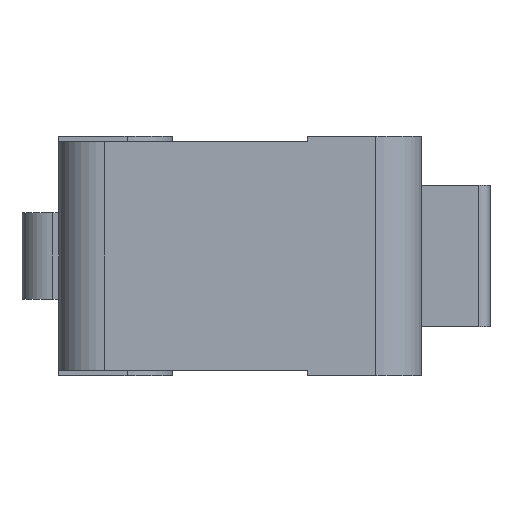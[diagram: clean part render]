
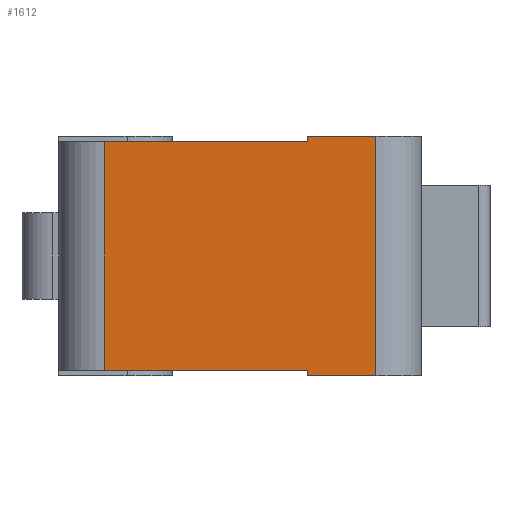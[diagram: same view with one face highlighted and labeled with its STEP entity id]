
A CAD part, left-side view. The second image highlights one B-rep face of the part: STEP entity #1612.
In plain terms, the highlighted planar face has unit normal (-1, 0, 0).
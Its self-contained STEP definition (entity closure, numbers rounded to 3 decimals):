
#217=FACE_OUTER_BOUND('',#319,.T.);
#319=EDGE_LOOP('',(#1435,#1436,#1437,#1438,#1439,#1440,#1441,#1442));
#466=LINE('',#2515,#641);
#469=LINE('',#2521,#644);
#480=LINE('',#2557,#655);
#483=LINE('',#2565,#658);
#496=LINE('',#2600,#671);
#498=LINE('',#2604,#673);
#499=LINE('',#2607,#674);
#500=LINE('',#2608,#675);
#641=VECTOR('',#2056,0.25);
#644=VECTOR('',#2063,3.);
#655=VECTOR('',#2096,3.);
#658=VECTOR('',#2105,0.25);
#671=VECTOR('',#2142,8.9);
#673=VECTOR('',#2148,10.5);
#674=VECTOR('',#2151,8.9);
#675=VECTOR('',#2152,10.);
#796=VERTEX_POINT('',#2512);
#797=VERTEX_POINT('',#2514);
#798=VERTEX_POINT('',#2519);
#811=VERTEX_POINT('',#2554);
#812=VERTEX_POINT('',#2556);
#814=VERTEX_POINT('',#2563);
#824=VERTEX_POINT('',#2599);
#825=VERTEX_POINT('',#2606);
#990=EDGE_CURVE('',#797,#796,#466,.T.);
#994=EDGE_CURVE('',#796,#798,#469,.T.);
#1011=EDGE_CURVE('',#811,#812,#480,.T.);
#1016=EDGE_CURVE('',#814,#811,#483,.T.);
#1034=EDGE_CURVE('',#797,#824,#496,.T.);
#1037=EDGE_CURVE('',#812,#798,#498,.T.);
#1038=EDGE_CURVE('',#825,#814,#499,.T.);
#1039=EDGE_CURVE('',#824,#825,#500,.T.);
#1435=ORIENTED_EDGE('',*,*,#1037,.F.);
#1436=ORIENTED_EDGE('',*,*,#1011,.F.);
#1437=ORIENTED_EDGE('',*,*,#1016,.F.);
#1438=ORIENTED_EDGE('',*,*,#1038,.F.);
#1439=ORIENTED_EDGE('',*,*,#1039,.F.);
#1440=ORIENTED_EDGE('',*,*,#1034,.F.);
#1441=ORIENTED_EDGE('',*,*,#990,.T.);
#1442=ORIENTED_EDGE('',*,*,#994,.T.);
#1532=PLANE('',#1737);
#1612=ADVANCED_FACE('',(#217),#1532,.T.);
#1737=AXIS2_PLACEMENT_3D('',#2605,#2149,#2150);
#2056=DIRECTION('',(0.,0.,-1.));
#2063=DIRECTION('',(0.,-1.,0.));
#2096=DIRECTION('',(0.,-1.,0.));
#2105=DIRECTION('',(0.,0.,1.));
#2142=DIRECTION('',(0.,1.,0.));
#2148=DIRECTION('',(0.,0.,-1.));
#2149=DIRECTION('center_axis',(-1.,0.,0.));
#2150=DIRECTION('ref_axis',(0.,-1.,0.));
#2151=DIRECTION('',(0.,-1.,0.));
#2152=DIRECTION('',(0.,0.,1.));
#2512=CARTESIAN_POINT('',(-13.9,-2.95,-5.25));
#2514=CARTESIAN_POINT('',(-13.9,-2.95,-5.));
#2515=CARTESIAN_POINT('',(-13.9,-2.95,-5.));
#2519=CARTESIAN_POINT('',(-13.9,-5.95,-5.25));
#2521=CARTESIAN_POINT('',(-13.9,-2.95,-5.25));
#2554=CARTESIAN_POINT('',(-13.9,-2.95,5.25));
#2556=CARTESIAN_POINT('',(-13.9,-5.95,5.25));
#2557=CARTESIAN_POINT('',(-13.9,-2.95,5.25));
#2563=CARTESIAN_POINT('',(-13.9,-2.95,5.));
#2565=CARTESIAN_POINT('',(-13.9,-2.95,5.));
#2599=CARTESIAN_POINT('',(-13.9,5.95,-5.));
#2600=CARTESIAN_POINT('',(-13.9,-7.95,-5.));
#2604=CARTESIAN_POINT('',(-13.9,-5.95,0.));
#2605=CARTESIAN_POINT('Origin',(-13.9,7.95,0.));
#2606=CARTESIAN_POINT('',(-13.9,5.95,5.));
#2607=CARTESIAN_POINT('',(-13.9,-7.95,5.));
#2608=CARTESIAN_POINT('',(-13.9,5.95,0.));
